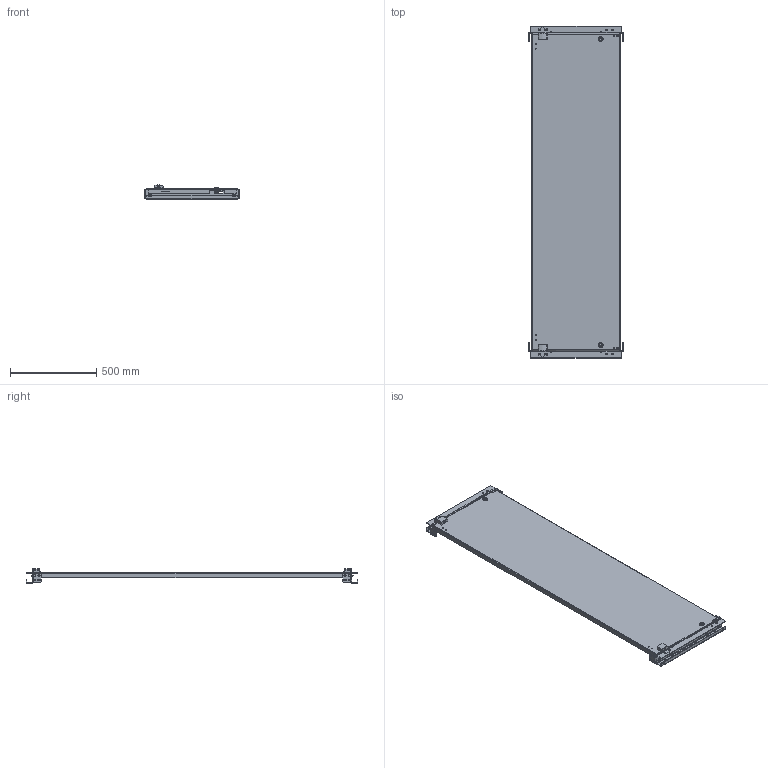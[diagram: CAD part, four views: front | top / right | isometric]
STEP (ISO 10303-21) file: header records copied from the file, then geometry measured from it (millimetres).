
FILE_DESCRIPTION (( 'STEP AP203' ), '1' );
FILE_NAME ('91830.step', '2013-04-03T13:10:15', ( '' ), ( '' ), 'SwSTEP 2.0', 'SolidWorks 2010', '' );
FILE_SCHEMA (( 'CONFIG_CONTROL_DESIGN' ));
Length unit declared in the file: inch
Products named in the file (15): 91830; 21458199; 11358726; 11158563_FLEXIBLE; 11258007; 99411283; 11158400; 87960060; 87959737; 11458483; 87932262; 87932266; 87956875; 99405822; 11258006
Assembly tree (19 placements, depth 5):
  91830
    21458199
    11358726  x2
    11158563_FLEXIBLE
      99411283  x2
      11258007  x2
      11158400  x2
        11458483
          87956875
          87932266
          87932262
        87960060
          87959737
        99405822
      11258006  x2
Bounding box: 547.29 x 1923.57 x 82.37 mm (x, y, z)
Volume: 3196051.3 mm3; surface area: 2509455 mm2
Topology: 15 solids, 23 shells, 1016 faces, 2638 edges, 1688 vertices
Faces by surface type: plane 538, cylinder 422, bspline 38, cone 18
Entity records: 22108 total; most frequent: CARTESIAN_POINT 6105, DIRECTION 2954, ORIENTED_EDGE 2950, EDGE_CURVE 1478, AXIS2_PLACEMENT_3D 1013, VERTEX_POINT 944, LINE 928, VECTOR 928
